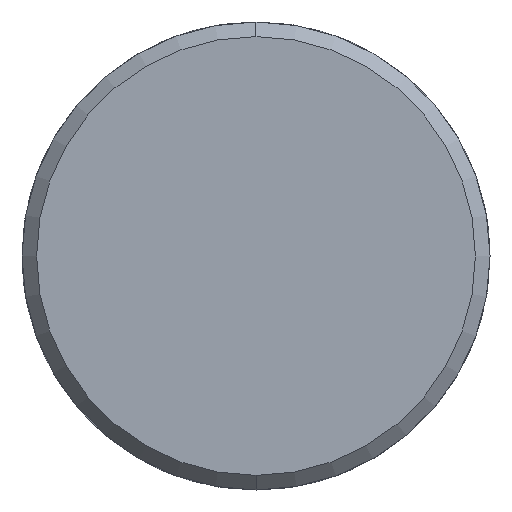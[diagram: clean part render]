
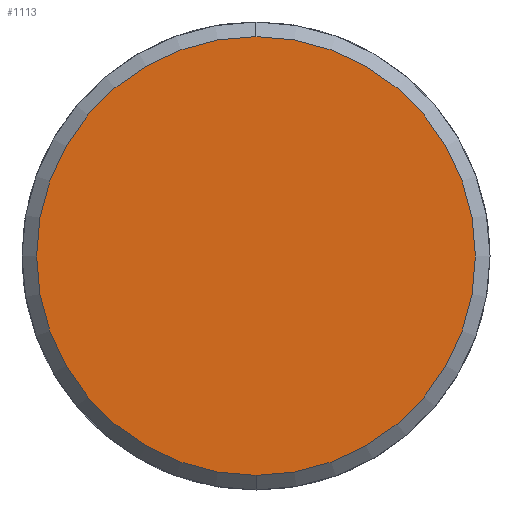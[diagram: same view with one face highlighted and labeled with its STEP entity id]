
A CAD part, left-side view. The second image highlights one B-rep face of the part: STEP entity #1113.
In plain terms, the highlighted planar face has unit normal (-1, 0, 0).
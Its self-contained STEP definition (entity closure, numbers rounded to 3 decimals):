
#1045=CARTESIAN_POINT('Vertex',(-6.,0.,-15.)) ;
#1048=CARTESIAN_POINT('Axis2P3D Location',(-6.,0.,0.)) ;
#1052=CARTESIAN_POINT('Vertex',(-6.,15.,0.)) ;
#1055=CARTESIAN_POINT('Axis2P3D Location',(-6.,0.,0.)) ;
#1059=CARTESIAN_POINT('Vertex',(-6.,0.,15.)) ;
#1081=CARTESIAN_POINT('Axis2P3D Location',(-6.,0.,0.)) ;
#1085=CARTESIAN_POINT('Vertex',(-6.,-15.,0.)) ;
#1088=CARTESIAN_POINT('Axis2P3D Location',(-6.,0.,0.)) ;
#1102=CARTESIAN_POINT('Axis2P3D Location',(-6.,0.,0.)) ;
#1049=DIRECTION('Axis2P3D Direction',(1.,0.,-0.)) ;
#1056=DIRECTION('Axis2P3D Direction',(1.,0.,-0.)) ;
#1082=DIRECTION('Axis2P3D Direction',(1.,0.,-0.)) ;
#1089=DIRECTION('Axis2P3D Direction',(1.,0.,-0.)) ;
#1103=DIRECTION('Axis2P3D Direction',(1.,0.,-0.)) ;
#1104=DIRECTION('Axis2P3D XDirection',(-0.,0.,-1.)) ;
#1050=AXIS2_PLACEMENT_3D('Circle Axis2P3D',#1048,#1049,$) ;
#1057=AXIS2_PLACEMENT_3D('Circle Axis2P3D',#1055,#1056,$) ;
#1083=AXIS2_PLACEMENT_3D('Circle Axis2P3D',#1081,#1082,$) ;
#1090=AXIS2_PLACEMENT_3D('Circle Axis2P3D',#1088,#1089,$) ;
#1105=AXIS2_PLACEMENT_3D('Plane Axis2P3D',#1102,#1103,#1104) ;
#1108=ORIENTED_EDGE('',*,*,#1054,.F.) ;
#1109=ORIENTED_EDGE('',*,*,#1092,.F.) ;
#1110=ORIENTED_EDGE('',*,*,#1087,.F.) ;
#1111=ORIENTED_EDGE('',*,*,#1061,.F.) ;
#1113=ADVANCED_FACE('351-20X36X70',(#1112),#1106,.F.) ;
#1051=CIRCLE('generated circle',#1050,15.) ;
#1058=CIRCLE('generated circle',#1057,15.) ;
#1084=CIRCLE('generated circle',#1083,15.) ;
#1091=CIRCLE('generated circle',#1090,15.) ;
#1054=EDGE_CURVE('',#1046,#1053,#1051,.T.) ;
#1061=EDGE_CURVE('',#1053,#1060,#1058,.T.) ;
#1087=EDGE_CURVE('',#1060,#1086,#1084,.T.) ;
#1092=EDGE_CURVE('',#1086,#1046,#1091,.T.) ;
#1107=EDGE_LOOP('',(#1108,#1109,#1110,#1111)) ;
#1112=FACE_OUTER_BOUND('',#1107,.T.) ;
#1106=PLANE('Plane',#1105) ;
#1046=VERTEX_POINT('',#1045) ;
#1053=VERTEX_POINT('',#1052) ;
#1060=VERTEX_POINT('',#1059) ;
#1086=VERTEX_POINT('',#1085) ;
